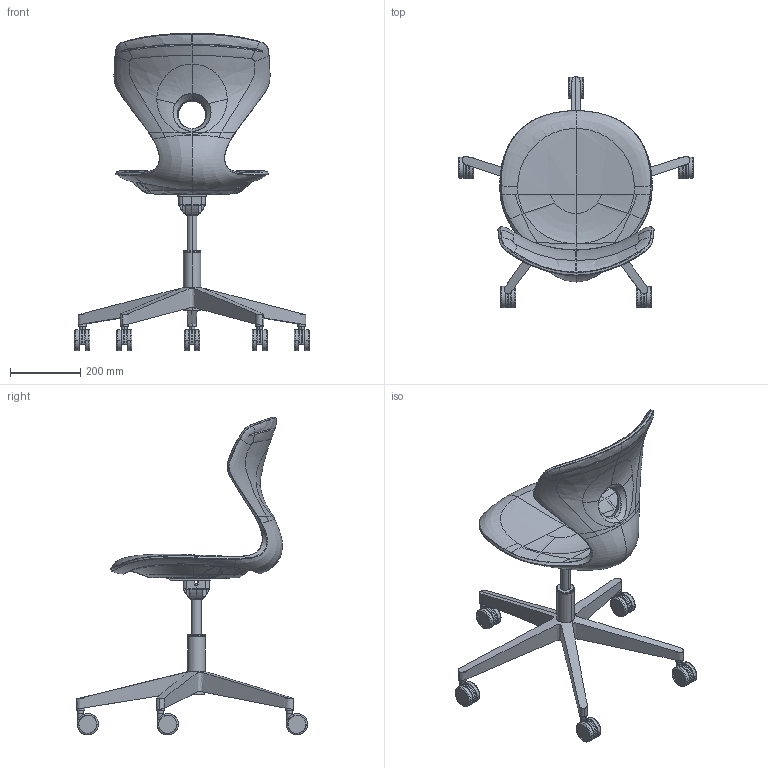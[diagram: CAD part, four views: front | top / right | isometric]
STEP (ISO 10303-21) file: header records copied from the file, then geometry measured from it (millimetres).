
FILE_DESCRIPTION(/* description */ (''),/* implementation_level */ '2;1');
FILE_NAME(/* name */ 'office-noha',/* time_stamp */ '2017-10-30T13:46:51+01:00',/* author */ (''),/* organization */ (''),/* preprocessor_version */ 'ST-DEVELOPER v10',/* originating_system */ '',/* authorisation */ '');
FILE_SCHEMA (('CONFIG_CONTROL_DESIGN'));
Products named in the file (1): 1
Bounding box: 668.21 x 656.7 x 902.78 mm (x, y, z)
Volume: 3182925.5 mm3; surface area: 1207857.3 mm2
Topology: 44 solids, 60 shells, 1333 faces, 3524 edges, 2256 vertices
Faces by surface type: bspline 1139, plane 194
Entity records: 151492 total; most frequent: CARTESIAN_POINT 131827, ORIENTED_EDGE 6179, EDGE_CURVE 3466, B_SPLINE_CURVE_WITH_KNOTS 2501, VERTEX_POINT 2220, EDGE_LOOP 1366, ADVANCED_FACE 1333, FACE_OUTER_BOUND 1333
